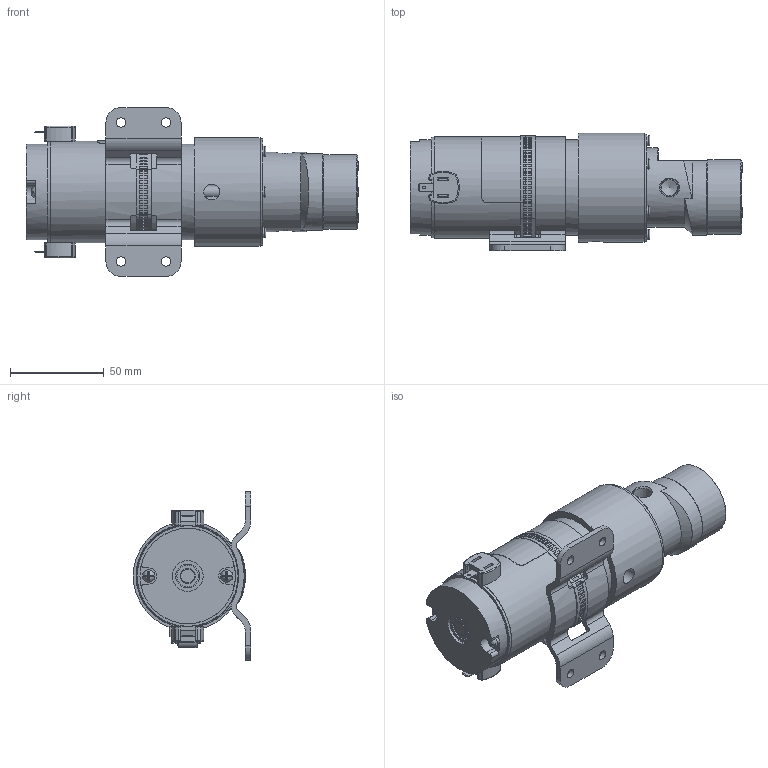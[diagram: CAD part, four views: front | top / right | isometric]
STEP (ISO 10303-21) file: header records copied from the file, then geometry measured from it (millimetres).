
FILE_DESCRIPTION (( 'STEP AP214' ), '1' );
FILE_NAME ('PD09-PM-0.STEP', '2017-03-03T21:26:33', ( '' ), ( '' ), 'SwSTEP 2.0', 'SolidWorks 2015', '' );
FILE_SCHEMA (( 'AUTOMOTIVE_DESIGN' ));
Length unit declared in the file: millimetre
Products named in the file (17): Copy of MB0110^PD09-PM-0; PD05-PU-0; PD03-SC-1; PD03-EP-0; PD05-BO-0; PD05-BB-0; bb0018^PD05-BB-0; PD03-CU-0; PD03-FL-0; PD03-SC-0; PD09-MA-0; PD07-SC-0_96710A258; PD07-MB-0; PD09-MO-0; Copy of MO0165^PD09-MO-0; PD09-PM-0; bAND^PD09-PM-0
Assembly tree (32 placements, depth 5):
  PD09-PM-0
    PD09-MA-0
      PD09-MO-0
        Copy of MO0165^PD09-MO-0
      PD07-MB-0
      PD07-SC-0_96710A258  x4
    PD05-PU-0
      PD03-SC-0  x6
      PD03-FL-0
      PD03-CU-0
      PD05-BO-0
        PD05-BB-0
          bb0018^PD05-BB-0
      PD03-EP-0
      PD03-SC-1  x3
    PD03-SC-0  x6
    Copy of MB0110^PD09-PM-0
    bAND^PD09-PM-0
Bounding box: 176.85 x 62.6 x 90 mm (x, y, z)
Volume: 215356.5 mm3; surface area: 109989.7 mm2
Topology: 43 solids, 43 shells, 1278 faces, 3280 edges, 2119 vertices
Faces by surface type: plane 715, cylinder 380, bspline 110, cone 43, torus 30
Full cylindrical faces by diameter (mm): 0.051 x2, 1.422 x4, 2.464 x4, 2.5 x6, 3.15 x2, 3.2 x9, 3.871 x1, 4 x4, 4.166 x2, 4.2 x3, 4.508 x2, 5 x4, 5.5 x15, 6 x3, 6.185 x2, 6.336 x1, 6.414 x2, 6.604 x2, 6.858 x4, 7.01 x2, 7.997 x2, 8.002 x3, 8.433 x2, 8.5 x1, 11.151 x1, 11.43 x4, 12.7 x4, 16.51 x2, 21.819 x1, 21.996 x2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
Entity records: 49038 total; most frequent: CARTESIAN_POINT 13012, ORIENTED_EDGE 6020, DIRECTION 5805, EDGE_CURVE 3010, AXIS2_PLACEMENT_3D 2049, VERTEX_POINT 2026, VECTOR 1707, LINE 1707
